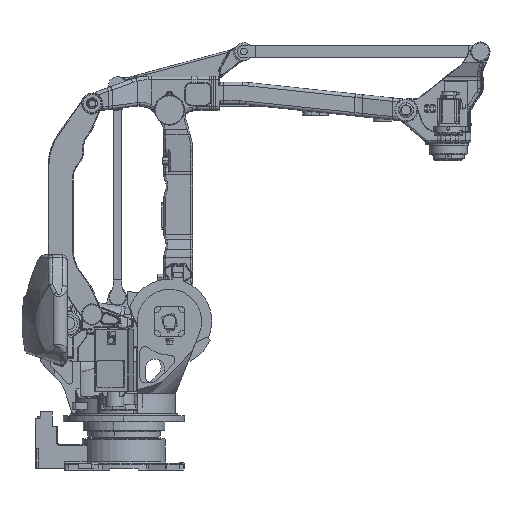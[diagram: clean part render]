
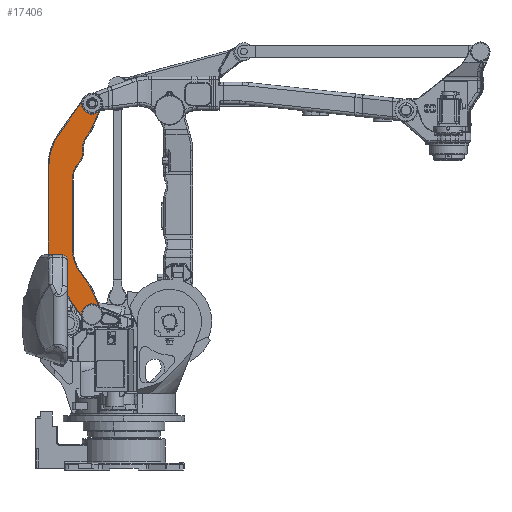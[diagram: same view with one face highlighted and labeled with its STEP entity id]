
A CAD part, front view. The second image highlights one B-rep face of the part: STEP entity #17406.
In plain terms, the highlighted planar face has unit normal (0, -1, 0).
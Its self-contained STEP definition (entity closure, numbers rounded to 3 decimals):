
#9062=LINE('',#160379,#13342);
#9063=LINE('',#160381,#13343);
#9064=LINE('',#160385,#13344);
#9065=LINE('',#160389,#13345);
#9066=LINE('',#160393,#13346);
#9067=LINE('',#160397,#13347);
#9068=LINE('',#160401,#13348);
#9069=LINE('',#160405,#13349);
#9070=LINE('',#160406,#13350);
#9071=LINE('',#160410,#13351);
#13342=VECTOR('',#94230,1.);
#13343=VECTOR('',#94231,1.);
#13344=VECTOR('',#94234,1.);
#13345=VECTOR('',#94237,1.);
#13346=VECTOR('',#94240,1.);
#13347=VECTOR('',#94243,1.);
#13348=VECTOR('',#94246,1.);
#13349=VECTOR('',#94249,1.);
#13350=VECTOR('',#94250,1.);
#13351=VECTOR('',#94253,1.);
#17406=ADVANCED_FACE('SPLSRF4',(#22593),#19025,.T.);
#19025=PLANE('',#75557);
#22593=FACE_OUTER_BOUND('',#26997,.T.);
#26997=EDGE_LOOP('',(#45444,#45445,#45446,#45447,#45448,#45449,#45450,#45451,
#45452,#45453,#45454,#45455,#45456,#45457,#45458,#45459,#45460,#45461,#45462,
#45463));
#45444=ORIENTED_EDGE('',*,*,#63113,.T.);
#45445=ORIENTED_EDGE('',*,*,#63108,.T.);
#45446=ORIENTED_EDGE('',*,*,#63114,.T.);
#45447=ORIENTED_EDGE('',*,*,#63115,.T.);
#45448=ORIENTED_EDGE('',*,*,#63116,.T.);
#45449=ORIENTED_EDGE('',*,*,#63117,.T.);
#45450=ORIENTED_EDGE('',*,*,#63118,.T.);
#45451=ORIENTED_EDGE('',*,*,#63119,.T.);
#45452=ORIENTED_EDGE('',*,*,#63120,.T.);
#45453=ORIENTED_EDGE('',*,*,#63121,.T.);
#45454=ORIENTED_EDGE('',*,*,#63122,.T.);
#45455=ORIENTED_EDGE('',*,*,#63123,.T.);
#45456=ORIENTED_EDGE('',*,*,#63124,.T.);
#45457=ORIENTED_EDGE('',*,*,#63125,.T.);
#45458=ORIENTED_EDGE('',*,*,#63126,.T.);
#45459=ORIENTED_EDGE('',*,*,#63102,.T.);
#45460=ORIENTED_EDGE('',*,*,#63127,.T.);
#45461=ORIENTED_EDGE('',*,*,#63128,.T.);
#45462=ORIENTED_EDGE('',*,*,#63129,.T.);
#45463=ORIENTED_EDGE('',*,*,#63130,.T.);
#53409=VERTEX_POINT('',#160210);
#53410=VERTEX_POINT('',#160212);
#53412=VERTEX_POINT('',#160250);
#53415=VERTEX_POINT('',#160255);
#53418=VERTEX_POINT('',#160380);
#53419=VERTEX_POINT('',#160382);
#53420=VERTEX_POINT('',#160384);
#53421=VERTEX_POINT('',#160386);
#53422=VERTEX_POINT('',#160388);
#53423=VERTEX_POINT('',#160390);
#53424=VERTEX_POINT('',#160392);
#53425=VERTEX_POINT('',#160394);
#53426=VERTEX_POINT('',#160396);
#53427=VERTEX_POINT('',#160398);
#53428=VERTEX_POINT('',#160400);
#53429=VERTEX_POINT('',#160402);
#53430=VERTEX_POINT('',#160404);
#53431=VERTEX_POINT('',#160407);
#53432=VERTEX_POINT('',#160409);
#53433=VERTEX_POINT('',#160411);
#63102=EDGE_CURVE('',#53410,#53409,#68068,.T.);
#63108=EDGE_CURVE('',#53412,#53415,#68073,.T.);
#63113=EDGE_CURVE('',#53418,#53412,#9062,.T.);
#63114=EDGE_CURVE('',#53415,#53419,#9063,.T.);
#63115=EDGE_CURVE('',#53419,#53420,#68075,.T.);
#63116=EDGE_CURVE('',#53420,#53421,#9064,.T.);
#63117=EDGE_CURVE('',#53421,#53422,#68076,.T.);
#63118=EDGE_CURVE('',#53422,#53423,#9065,.T.);
#63119=EDGE_CURVE('',#53423,#53424,#68077,.T.);
#63120=EDGE_CURVE('',#53424,#53425,#9066,.T.);
#63121=EDGE_CURVE('',#53425,#53426,#68078,.T.);
#63122=EDGE_CURVE('',#53426,#53427,#9067,.T.);
#63123=EDGE_CURVE('',#53427,#53428,#68079,.T.);
#63124=EDGE_CURVE('',#53428,#53429,#9068,.T.);
#63125=EDGE_CURVE('',#53429,#53430,#68080,.T.);
#63126=EDGE_CURVE('',#53430,#53410,#9069,.T.);
#63127=EDGE_CURVE('',#53409,#53431,#9070,.T.);
#63128=EDGE_CURVE('',#53431,#53432,#68081,.T.);
#63129=EDGE_CURVE('',#53432,#53433,#9071,.T.);
#63130=EDGE_CURVE('',#53433,#53418,#68082,.T.);
#68068=CIRCLE('',#75539,64.);
#68073=CIRCLE('',#75545,64.);
#68075=CIRCLE('',#75549,95.);
#68076=CIRCLE('',#75550,205.);
#68077=CIRCLE('',#75551,105.);
#68078=CIRCLE('',#75552,95.);
#68079=CIRCLE('',#75553,105.);
#68080=CIRCLE('',#75554,95.);
#68081=CIRCLE('',#75555,305.);
#68082=CIRCLE('',#75556,305.);
#75539=AXIS2_PLACEMENT_3D('',#160211,#94210,#94211);
#75545=AXIS2_PLACEMENT_3D('',#160256,#94222,#94223);
#75549=AXIS2_PLACEMENT_3D('',#160383,#94232,#94233);
#75550=AXIS2_PLACEMENT_3D('',#160387,#94235,#94236);
#75551=AXIS2_PLACEMENT_3D('',#160391,#94238,#94239);
#75552=AXIS2_PLACEMENT_3D('',#160395,#94241,#94242);
#75553=AXIS2_PLACEMENT_3D('',#160399,#94244,#94245);
#75554=AXIS2_PLACEMENT_3D('',#160403,#94247,#94248);
#75555=AXIS2_PLACEMENT_3D('',#160408,#94251,#94252);
#75556=AXIS2_PLACEMENT_3D('',#160412,#94254,#94255);
#75557=AXIS2_PLACEMENT_3D('',#160413,#94256,#94257);
#94210=DIRECTION('',(0.,1.,0.));
#94211=DIRECTION('',(0.599,0.,-0.801));
#94222=DIRECTION('',(0.,1.,0.));
#94223=DIRECTION('',(-0.997,0.,-0.074));
#94230=DIRECTION('',(0.574,0.,-0.819));
#94231=DIRECTION('',(-0.382,0.,0.924));
#94232=DIRECTION('',(0.,-1.,0.));
#94233=DIRECTION('',(0.924,0.,0.382));
#94234=DIRECTION('',(-0.574,0.,0.819));
#94235=DIRECTION('',(0.,1.,0.));
#94236=DIRECTION('',(-0.819,0.,-0.574));
#94237=DIRECTION('',(0.,0.,1.));
#94238=DIRECTION('',(0.,1.,0.));
#94239=DIRECTION('',(-1.,0.,0.));
#94240=DIRECTION('',(0.574,0.,0.819));
#94241=DIRECTION('',(0.,-1.,0.));
#94242=DIRECTION('',(0.819,0.,-0.574));
#94243=DIRECTION('',(0.,0.,1.));
#94244=DIRECTION('',(0.,1.,0.));
#94245=DIRECTION('',(-1.,0.,0.));
#94246=DIRECTION('',(0.574,0.,0.819));
#94247=DIRECTION('',(0.,-1.,0.));
#94248=DIRECTION('',(0.819,0.,-0.574));
#94249=DIRECTION('',(0.382,0.,0.924));
#94250=DIRECTION('',(-0.574,0.,-0.819));
#94251=DIRECTION('',(0.,-1.,0.));
#94252=DIRECTION('',(-0.819,0.,0.574));
#94253=DIRECTION('',(0.,0.,-1.));
#94254=DIRECTION('',(0.,-1.,0.));
#94255=DIRECTION('',(-1.,0.,0.));
#94256=DIRECTION('',(0.,-1.,0.));
#94257=DIRECTION('',(1.,0.,0.));
#160210=CARTESIAN_POINT('',(-252.074,-113.5,2174.831));
#160211=CARTESIAN_POINT('',(-188.25,-113.5,2170.092));
#160212=CARTESIAN_POINT('',(-149.943,-113.5,2118.821));
#160250=CARTESIAN_POINT('',(-252.074,-113.5,915.353));
#160255=CARTESIAN_POINT('',(-149.943,-113.5,971.362));
#160256=CARTESIAN_POINT('',(-188.25,-113.5,920.092));
#160379=CARTESIAN_POINT('',(-388.091,-113.5,1109.605));
#160380=CARTESIAN_POINT('',(-388.091,-113.5,1109.605));
#160381=CARTESIAN_POINT('',(-149.943,-113.5,971.362));
#160382=CARTESIAN_POINT('',(-188.676,-113.5,1064.955));
#160383=CARTESIAN_POINT('',(-276.456,-113.5,1028.629));
#160384=CARTESIAN_POINT('',(-198.636,-113.5,1083.119));
#160385=CARTESIAN_POINT('',(-198.636,-113.5,1083.119));
#160386=CARTESIAN_POINT('',(-266.176,-113.5,1179.575));
#160387=CARTESIAN_POINT('',(-98.25,-113.5,1297.158));
#160388=CARTESIAN_POINT('',(-303.25,-113.5,1297.158));
#160389=CARTESIAN_POINT('',(-303.25,-113.5,1297.158));
#160390=CARTESIAN_POINT('',(-303.25,-113.5,1734.555));
#160391=CARTESIAN_POINT('',(-198.25,-113.5,1734.555));
#160392=CARTESIAN_POINT('',(-284.261,-113.5,1794.781));
#160393=CARTESIAN_POINT('',(-284.261,-113.5,1794.781));
#160394=CARTESIAN_POINT('',(-260.43,-113.5,1828.814));
#160395=CARTESIAN_POINT('',(-338.25,-113.5,1883.304));
#160396=CARTESIAN_POINT('',(-243.25,-113.5,1883.304));
#160397=CARTESIAN_POINT('',(-243.25,-113.5,1883.304));
#160398=CARTESIAN_POINT('',(-243.25,-113.5,1910.244));
#160399=CARTESIAN_POINT('',(-138.25,-113.5,1910.244));
#160400=CARTESIAN_POINT('',(-224.261,-113.5,1970.47));
#160401=CARTESIAN_POINT('',(-224.261,-113.5,1970.47));
#160402=CARTESIAN_POINT('',(-198.636,-113.5,2007.065));
#160403=CARTESIAN_POINT('',(-276.456,-113.5,2061.554));
#160404=CARTESIAN_POINT('',(-188.676,-113.5,2025.228));
#160405=CARTESIAN_POINT('',(-188.676,-113.5,2025.228));
#160406=CARTESIAN_POINT('',(-252.074,-113.5,2174.831));
#160407=CARTESIAN_POINT('',(-388.091,-113.5,1980.578));
#160408=CARTESIAN_POINT('',(-138.25,-113.5,1805.637));
#160409=CARTESIAN_POINT('',(-443.25,-113.5,1805.637));
#160410=CARTESIAN_POINT('',(-443.25,-113.5,1805.637));
#160411=CARTESIAN_POINT('',(-443.25,-113.5,1284.546));
#160412=CARTESIAN_POINT('',(-138.25,-113.5,1284.546));
#160413=CARTESIAN_POINT('',(-449.116,-113.5,890.163));
